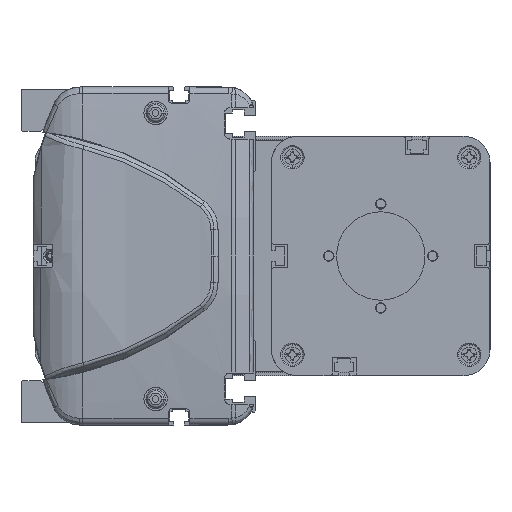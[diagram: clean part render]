
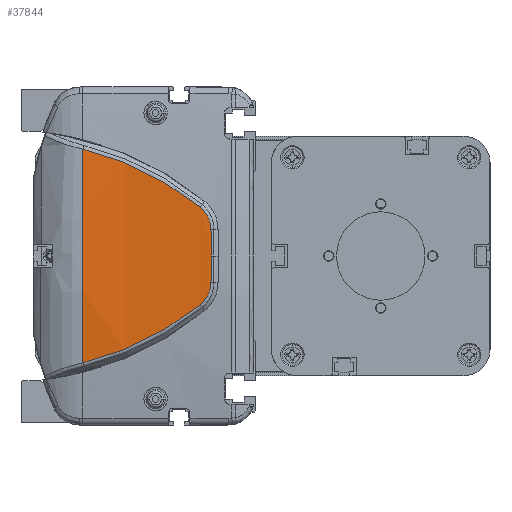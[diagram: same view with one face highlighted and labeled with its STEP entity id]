
A CAD part, left-side view. The second image highlights one B-rep face of the part: STEP entity #37844.
In plain terms, the highlighted cylindrical face has radius 500 mm (diameter 1000 mm), a partial arc.
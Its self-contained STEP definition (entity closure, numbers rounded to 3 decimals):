
#12067=CARTESIAN_POINT('',(-413.648,21.913,
-18.759));
#12068=CARTESIAN_POINT('',(-413.449,28.504,
-24.058));
#12069=CARTESIAN_POINT('',(-412.934,42.795,
-33.27));
#12070=CARTESIAN_POINT('',(-412.471,58.756,
-39.127));
#12071=CARTESIAN_POINT('',(-412.306,66.962,
-41.121));
#12073=CARTESIAN_POINT('',(-412.306,66.962,
41.121));
#12074=CARTESIAN_POINT('',(-412.471,58.756,
39.127));
#12075=CARTESIAN_POINT('',(-412.934,42.795,
33.27));
#12076=CARTESIAN_POINT('',(-413.449,28.504,
24.058));
#12077=CARTESIAN_POINT('',(-413.648,21.913,
18.759));
#12079=CARTESIAN_POINT('',(-413.648,21.913,
18.759));
#12080=CARTESIAN_POINT('',(-413.686,20.635,
17.736));
#12081=CARTESIAN_POINT('',(-413.779,18.536,
15.107));
#12082=CARTESIAN_POINT('',(-413.863,17.752,
11.827));
#12083=CARTESIAN_POINT('',(-413.896,17.724,
10.178));
#12085=CARTESIAN_POINT('',(-413.896,17.724,
10.178));
#12086=CARTESIAN_POINT('',(-413.92,17.707,
9.02));
#12087=CARTESIAN_POINT('',(-413.959,17.667,
6.721));
#12088=CARTESIAN_POINT('',(-413.993,17.579,
3.327));
#12089=CARTESIAN_POINT('',(-414.,17.498,
1.103));
#12090=CARTESIAN_POINT('',(-414.,17.449,
0.));
#12092=CARTESIAN_POINT('',(-414.,17.449,
0.));
#12093=CARTESIAN_POINT('',(-414.,17.498,
-1.103));
#12094=CARTESIAN_POINT('',(-413.993,17.579,
-3.327));
#12095=CARTESIAN_POINT('',(-413.959,17.667,
-6.72));
#12096=CARTESIAN_POINT('',(-413.92,17.707,
-9.022));
#12097=CARTESIAN_POINT('',(-413.896,17.724,
-10.18));
#12099=CARTESIAN_POINT('',(-413.896,17.724,
-10.18));
#12100=CARTESIAN_POINT('',(-413.863,17.752,
-11.828));
#12101=CARTESIAN_POINT('',(-413.779,18.537,
-15.109));
#12102=CARTESIAN_POINT('',(-413.686,20.635,
-17.736));
#12103=CARTESIAN_POINT('',(-413.648,21.913,
-18.759));
#12379=CARTESIAN_POINT('',(86.,66.962,0.));
#12380=DIRECTION('',(0.,-1.,0.));
#12381=DIRECTION('',(-0.997,0.,0.082));
#12382=AXIS2_PLACEMENT_3D('',#12379,#12380,#12381);
#18020=VERTEX_POINT('',#12067);
#18021=VERTEX_POINT('',#12071);
#18022=CARTESIAN_POINT('',(-412.306,66.962,
41.121));
#18023=VERTEX_POINT('',#18022);
#18024=VERTEX_POINT('',#12077);
#18025=VERTEX_POINT('',#12083);
#18026=VERTEX_POINT('',#12090);
#18027=VERTEX_POINT('',#12097);
#37824=CARTESIAN_POINT('',(86.,8.606,0.));
#37825=DIRECTION('',(0.,1.,0.));
#37826=DIRECTION('',(1.,0.,0.));
#37827=AXIS2_PLACEMENT_3D('',#37824,#37825,#37826);
#37828=CYLINDRICAL_SURFACE('',#37827,500.);
#37830=ORIENTED_EDGE('',*,*,#37829,.T.);
#37832=ORIENTED_EDGE('',*,*,#37831,.F.);
#37833=ORIENTED_EDGE('',*,*,#37815,.T.);
#37835=ORIENTED_EDGE('',*,*,#37834,.T.);
#37837=ORIENTED_EDGE('',*,*,#37836,.T.);
#37839=ORIENTED_EDGE('',*,*,#37838,.T.);
#37841=ORIENTED_EDGE('',*,*,#37840,.T.);
#37842=EDGE_LOOP('',(#37830,#37832,#37833,#37835,#37837,#37839,#37841));
#37843=FACE_OUTER_BOUND('',#37842,.F.);
#37844=ADVANCED_FACE('',(#37843),#37828,.T.);
#12072=B_SPLINE_CURVE_WITH_KNOTS('',3,(#12067,#12068,#12069,#12070,#12071),
.UNSPECIFIED.,.F.,.F.,(4,1,4),(0.,0.5,1.),.UNSPECIFIED.);
#12078=B_SPLINE_CURVE_WITH_KNOTS('',3,(#12073,#12074,#12075,#12076,#12077),
.UNSPECIFIED.,.F.,.F.,(4,1,4),(0.,0.5,1.),.UNSPECIFIED.);
#12084=B_SPLINE_CURVE_WITH_KNOTS('',3,(#12079,#12080,#12081,#12082,#12083),
.UNSPECIFIED.,.F.,.F.,(4,1,4),(0.,0.5,1.),.UNSPECIFIED.);
#12091=B_SPLINE_CURVE_WITH_KNOTS('',3,(#12085,#12086,#12087,#12088,#12089,
#12090),.UNSPECIFIED.,.F.,.F.,(4,1,1,4),(0.,0.333,
0.667,1.),.UNSPECIFIED.);
#12098=B_SPLINE_CURVE_WITH_KNOTS('',3,(#12092,#12093,#12094,#12095,#12096,
#12097),.UNSPECIFIED.,.F.,.F.,(4,1,1,4),(0.,0.333,
0.667,1.),.UNSPECIFIED.);
#12104=B_SPLINE_CURVE_WITH_KNOTS('',3,(#12099,#12100,#12101,#12102,#12103),
.UNSPECIFIED.,.F.,.F.,(4,1,4),(0.,0.5,1.),.UNSPECIFIED.);
#12383=CIRCLE('',#12382,500.);
#37815=EDGE_CURVE('',#18023,#18024,#12078,.T.);
#37829=EDGE_CURVE('',#18020,#18021,#12072,.T.);
#37831=EDGE_CURVE('',#18023,#18021,#12383,.T.);
#37834=EDGE_CURVE('',#18024,#18025,#12084,.T.);
#37836=EDGE_CURVE('',#18025,#18026,#12091,.T.);
#37838=EDGE_CURVE('',#18026,#18027,#12098,.T.);
#37840=EDGE_CURVE('',#18027,#18020,#12104,.T.);
